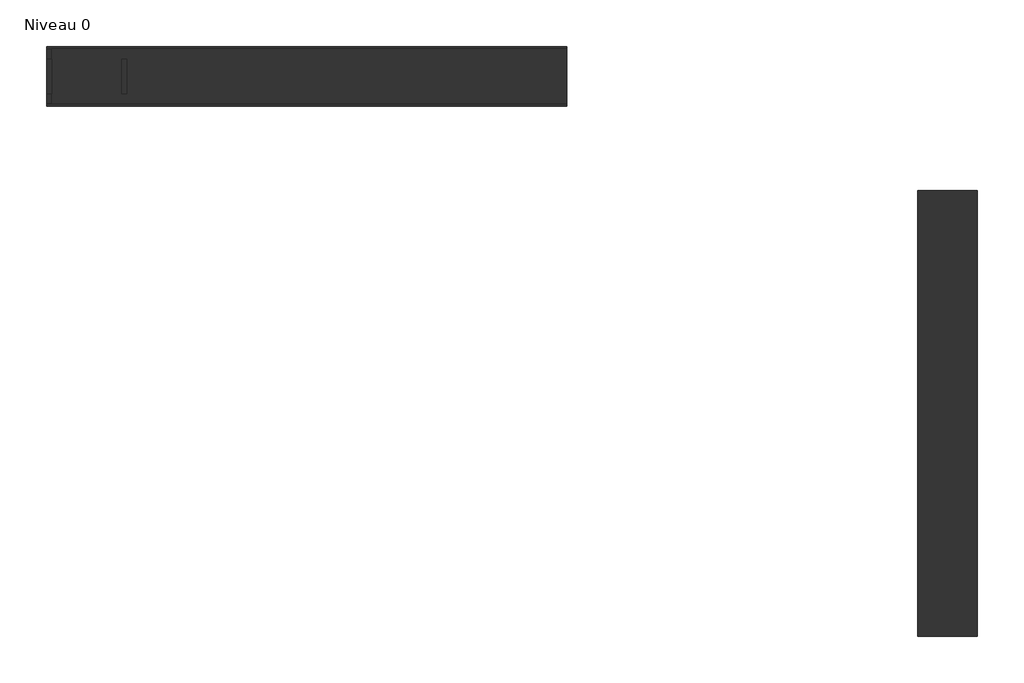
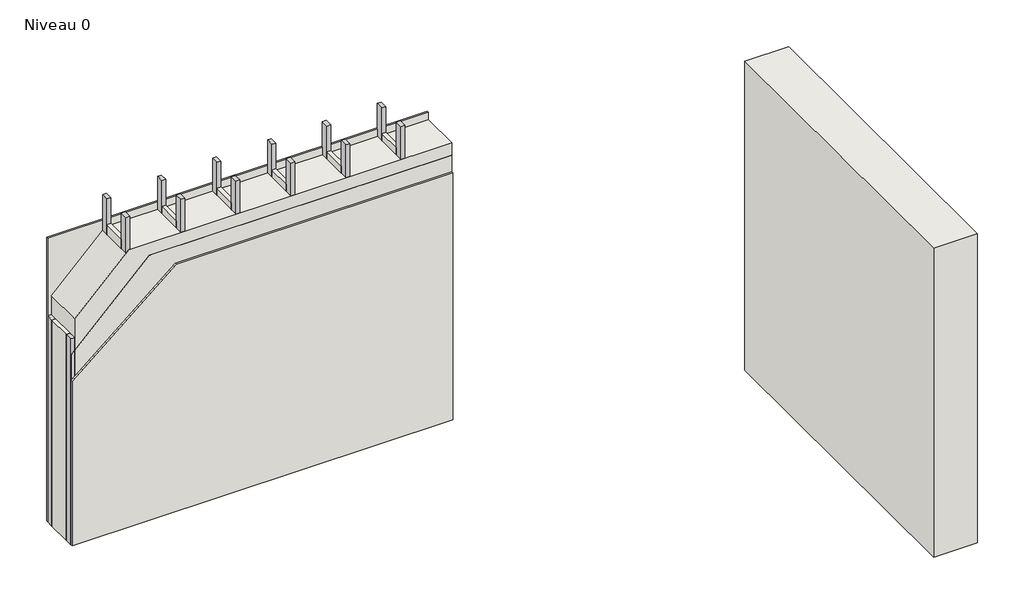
# One storey: 14 columns, 12 walls.
"""IFC4 building model written with IfcOpenShell, lengths in millimetres."""

import ifcopenshell
import ifcopenshell.guid

model = None  # the IFC model being written
_history = None  # IfcOwnerHistory: only IFC2X3 demands one
_inside = {}  # id of a spatial element -> (the spatial element, [elements in it])
_under = {}  # id of a project, library or spatial element -> (it, [spatial elements below it])
_declared = {}  # id of a project -> (the project, [libraries it declares])
_typed = {}  # id of a type object -> (the type object, [elements of that type])
_made_of = {}  # id of a material, layer set ... -> (it, [elements and type objects made of it])


def new_model(schema):
    """Start an empty IFC model of exactly this schema.

    Asked for "IFC4X3", IfcOpenShell would pick the latest addendum, in which some entities
    have other attributes; the version numbers below select the first issue.
    IFC2X3 requires an IfcOwnerHistory on every rooted entity: one is made here for all.
    """
    global model, _history
    if schema == "IFC4X3":
        model = ifcopenshell.file(schema_version=(4, 3, 0, 0))
    else:
        model = ifcopenshell.file(schema=schema)
    _inside.clear()
    _under.clear()
    _declared.clear()
    _typed.clear()
    _made_of.clear()
    _history = None
    if model.schema == "IFC2X3":
        org = make("IfcOrganization", Name="unknown")
        user = make(
            "IfcPersonAndOrganization",
            ThePerson=make("IfcPerson", FamilyName="unknown"),
            TheOrganization=org,
        )
        app = make(
            "IfcApplication",
            ApplicationDeveloper=org,
            Version="unknown",
            ApplicationFullName="unknown",
            ApplicationIdentifier="unknown",
        )
        _history = make(
            "IfcOwnerHistory",
            OwningUser=user,
            OwningApplication=app,
            ChangeAction="ADDED",
            CreationDate=0,
        )
    return model


def make(cls, **values):
    """One entity of the class cls with the attributes given. An attribute that is None is left unset."""
    return model.create_entity(
        cls, **{name: value for name, value in values.items() if value is not None}
    )


def rooted(cls, **values):
    """An entity with a GlobalId (a new one), such as an element, a storey or a relation."""
    return make(cls, GlobalId=ifcopenshell.guid.new(), OwnerHistory=_history, **values)


def si_unit(unit_type, name, prefix=None):
    """IfcSIUnit, for example si_unit("LENGTHUNIT", "METRE", prefix="MILLI")."""
    return make("IfcSIUnit", UnitType=unit_type, Prefix=prefix, Name=name)


def assignment(units):
    """IfcUnitAssignment: the units of a project."""
    return None if units is None else make("IfcUnitAssignment", Units=units)


def point(xyz):
    """IfcCartesianPoint."""
    return None if xyz is None else make("IfcCartesianPoint", Coordinates=xyz)


def direction(xyz):
    """IfcDirection."""
    return None if xyz is None else make("IfcDirection", DirectionRatios=xyz)


def frame(location, z_axis=None, x_axis=None):
    """IfcAxis2Placement3D, a coordinate frame: its origin and axes. An axis left out is left unset."""
    return make(
        "IfcAxis2Placement3D",
        Location=point(location),
        Axis=direction(z_axis),
        RefDirection=direction(x_axis),
    )


def origin():
    """The frame at (0, 0, 0) with its axes left unset."""
    return frame((0.0, 0.0, 0.0))


def origin_with_axes():
    """The frame at (0, 0, 0) with the z axis (0, 0, 1) and the x axis (1, 0, 0) written out."""
    return frame((0.0, 0.0, 0.0), z_axis=(0.0, 0.0, 1.0), x_axis=(1.0, 0.0, 0.0))


def place(relative_to, where):
    """IfcLocalPlacement: puts the frame where relative to a parent placement (None: the world)."""
    return make(
        "IfcLocalPlacement", PlacementRelTo=relative_to, RelativePlacement=where
    )


def context(
    kind, dimensions, precision=None, world=None, true_north=None, identifier=None
):
    """IfcGeometricRepresentationContext, for example the 3D "Model" context."""
    return make(
        "IfcGeometricRepresentationContext",
        ContextIdentifier=identifier,
        ContextType=kind,
        CoordinateSpaceDimension=dimensions,
        Precision=precision,
        WorldCoordinateSystem=world,
        TrueNorth=true_north,
    )


def project(units=None, contexts=None):
    """IfcProject with its units and contexts."""
    return rooted(
        "IfcProject",
        Name="project",
        RepresentationContexts=contexts,
        UnitsInContext=assignment(units),
    )


def spatial(cls, under=None, at=None, **own):
    """A site, building, storey or space (cls), placed at a placement, below another one or the project."""
    s = rooted(cls, ObjectPlacement=at, **own)
    if under is not None:
        _under.setdefault(under.id(), (under, []))[1].append(s)
    return s


def polyline(points):
    """IfcPolyline through the points."""
    return make("IfcPolyline", Points=[point(p) for p in points])


def outline(outer, holes=None, kind="AREA"):
    """IfcArbitraryClosedProfileDef: a profile drawn as a closed curve; with holes, ...WithVoids."""
    if holes is None:
        return make("IfcArbitraryClosedProfileDef", ProfileType=kind, OuterCurve=outer)
    return make(
        "IfcArbitraryProfileDefWithVoids",
        ProfileType=kind,
        OuterCurve=outer,
        InnerCurves=holes,
    )


def extrude(swept, where, along, depth):
    """IfcExtrudedAreaSolid: the profile swept, set in the frame where, extruded along a direction by depth."""
    return make(
        "IfcExtrudedAreaSolid",
        SweptArea=swept,
        Position=where,
        ExtrudedDirection=direction(along),
        Depth=depth,
    )


def faces_of(points, faces, orient=None, outer=None):
    """IfcFace entities. A face is a list of loops; a loop is a list of indices into points, from 0.

    orient and outer hold one flag for each loop. By default every Orientation is true, the
    first loop of a face is its IfcFaceOuterBound and the others are IfcFaceBound.
    """
    made = []
    for i, loops in enumerate(faces):
        bounds = []
        for j, loop in enumerate(loops):
            is_outer = j == 0 if outer is None else outer[i][j]
            bounds.append(
                make(
                    "IfcFaceOuterBound" if is_outer else "IfcFaceBound",
                    Bound=make("IfcPolyLoop", Polygon=[points[k] for k in loop]),
                    Orientation=True if orient is None else orient[i][j],
                )
            )
        made.append(make("IfcFace", Bounds=bounds))
    return made


def faceted_brep(points, faces, orient=None, outer=None, voids=None):
    """IfcFacetedBrep: a solid bounded by flat faces; with voids (closed shells), ...WithVoids."""
    shared = [point(p) for p in points]
    hull = make("IfcClosedShell", CfsFaces=faces_of(shared, faces, orient, outer))
    if voids is None:
        return make("IfcFacetedBrep", Outer=hull)
    return make(
        "IfcFacetedBrepWithVoids",
        Outer=hull,
        Voids=[
            make(cls, CfsFaces=faces_of(shared, fs, o, b)) for cls, fs, o, b in voids
        ],
    )


def shape(context_of_items, identifier, shape_type, items):
    """IfcShapeRepresentation: the items that make up one representation, for example the "Body"."""
    return make(
        "IfcShapeRepresentation",
        ContextOfItems=context_of_items,
        RepresentationIdentifier=identifier,
        RepresentationType=shape_type,
        Items=items,
    )


def made_of(thing, what):
    """Note that an element or type object is made of a material, layer set ...; save() writes the relation."""
    if what is not None:
        _made_of.setdefault(what.id(), (what, []))[1].append(thing)
    return thing


def element(
    cls,
    number,
    at=None,
    inside=None,
    cuts=None,
    type_object=None,
    material=None,
    context=None,
    identifier="Body",
    shape_type=None,
    held_by="IfcProductDefinitionShape",
    body=None,
    shapes=None,
    **own,
):
    """One element of the class cls, such as IfcWall. Its Tag is "e" and its number.

    at: its placement. inside: the storey or other place that contains it. cuts: it is an
    opening in that element (IfcRelVoidsElement). A single representation is given by context,
    identifier, shape_type and body (its items); several are given by shapes. held_by: the class
    of the entity that holds the representations. save() writes the other relations.
    """
    e = rooted(cls, Tag="e%d" % number, ObjectPlacement=at, **own)
    if body is not None:
        shapes = [shape(context, identifier, shape_type, body)]
    if shapes is not None:
        e.Representation = make(held_by, Representations=shapes)
    if inside is not None:
        _inside.setdefault(inside.id(), (inside, []))[1].append(e)
    if cuts is not None:
        rooted(
            "IfcRelVoidsElement", RelatingBuildingElement=cuts, RelatedOpeningElement=e
        )
    if type_object is not None:
        _typed.setdefault(type_object.id(), (type_object, []))[1].append(e)
    return made_of(e, material)


def aggregate(whole, parts):
    """IfcRelAggregates: a whole, such as a stair, and the parts it consists of."""
    return rooted("IfcRelAggregates", RelatingObject=whole, RelatedObjects=parts)


def save(model, path):
    """Write the relations noted so far, then the file.

    IfcRelAggregates (storeys below a building ...), IfcRelContainedInSpatialStructure (elements
    in a storey), IfcRelDefinesByType, IfcRelAssociatesMaterial and IfcRelDeclares: one each for
    every whole, place, type object, material and project.
    """
    for whole, parts in _under.values():
        aggregate(whole, parts)
    for where, things in _inside.values():
        rooted(
            "IfcRelContainedInSpatialStructure",
            RelatedElements=things,
            RelatingStructure=where,
        )
    for kind, things in _typed.values():
        rooted("IfcRelDefinesByType", RelatedObjects=things, RelatingType=kind)
    for what, things in _made_of.values():
        rooted("IfcRelAssociatesMaterial", RelatedObjects=things, RelatingMaterial=what)
    for by, libraries in _declared.values():
        rooted("IfcRelDeclares", RelatingContext=by, RelatedDefinitions=libraries)
    model.write(path)


model = new_model("IFC4")

# Units and contexts
model_context = context("Model", 3, world=origin())
ifc_project = project(units=[si_unit("LENGTHUNIT", "METRE", prefix="MILLI")], contexts=[model_context])

# Site, building, storey
site = spatial("IfcSite", under=ifc_project)
building = spatial("IfcBuilding", under=site)
storey = spatial("IfcBuildingStorey", under=building, Name="Niveau 0", Elevation=0.0)

# Columns
placement = place(None, origin())
element("IfcColumn", 1, ObjectType="Bois - Bois de construction de dimensions courantes : 35x70", at=placement, inside=storey, context=model_context, shape_type="SweptSolid", body=[
    extrude(outline(polyline([(-5777.5543614, -1203.2584766), (-5777.5543614, -1273.2584766), (-5812.5543614, -1273.2584766), (-5812.5543614, -1203.2584766), (-5777.5543614, -1203.2584766)])), origin_with_axes(), (0.0, 0.0, 1.0), 2000.0),
])
element("IfcColumn", 2, ObjectType="Bois - Bois de construction de dimensions courantes : 35x70", at=placement, inside=storey, context=model_context, shape_type="SweptSolid", body=[
    extrude(outline(polyline([(-5812.5543614, -973.2584766), (-5812.5543614, -903.2584766), (-5777.5543614, -903.2584766), (-5777.5543614, -973.2584766), (-5812.5543614, -973.2584766)])), origin_with_axes(), (0.0, 0.0, 1.0), 2000.0),
])
element("IfcColumn", 3, ObjectType="Bois - Bois de construction de dimensions courantes : 35x70", at=placement, inside=storey, context=model_context, shape_type="SweptSolid", body=[
    extrude(outline(polyline([(-5272.5543614, -1203.2584766), (-5272.5543614, -1273.2584766), (-5307.5543614, -1273.2584766), (-5307.5543614, -1203.2584766), (-5272.5543614, -1203.2584766)])), origin_with_axes(), (0.0, 0.0, 1.0), 3000.0),
])
element("IfcColumn", 4, ObjectType="Bois - Bois de construction de dimensions courantes : 35x70", at=placement, inside=storey, context=model_context, shape_type="SweptSolid", body=[
    extrude(outline(polyline([(-5307.5543614, -973.2584766), (-5307.5543614, -903.2584766), (-5272.5543614, -903.2584766), (-5272.5543614, -973.2584766), (-5307.5543614, -973.2584766)])), origin_with_axes(), (0.0, 0.0, 1.0), 3000.0),
])
element("IfcColumn", 5, ObjectType="Bois - Bois de construction de dimensions courantes : 35x70", at=placement, inside=storey, context=model_context, shape_type="SweptSolid", body=[
    extrude(outline(polyline([(-4767.5543614, -1203.2584766), (-4767.5543614, -1273.2584766), (-4802.5543614, -1273.2584766), (-4802.5543614, -1203.2584766), (-4767.5543614, -1203.2584766)])), origin_with_axes(), (0.0, 0.0, 1.0), 3000.0),
])
element("IfcColumn", 6, ObjectType="Bois - Bois de construction de dimensions courantes : 35x70", at=placement, inside=storey, context=model_context, shape_type="SweptSolid", body=[
    extrude(outline(polyline([(-4802.5543614, -973.2584766), (-4802.5543614, -903.2584766), (-4767.5543614, -903.2584766), (-4767.5543614, -973.2584766), (-4802.5543614, -973.2584766)])), origin_with_axes(), (0.0, 0.0, 1.0), 3000.0),
])
element("IfcColumn", 7, ObjectType="Bois - Bois de construction de dimensions courantes : 35x70", at=placement, inside=storey, context=model_context, shape_type="SweptSolid", body=[
    extrude(outline(polyline([(-4262.5543614, -1203.2584766), (-4262.5543614, -1273.2584766), (-4297.5543614, -1273.2584766), (-4297.5543614, -1203.2584766), (-4262.5543614, -1203.2584766)])), origin_with_axes(), (0.0, 0.0, 1.0), 3000.0),
])
element("IfcColumn", 8, ObjectType="Bois - Bois de construction de dimensions courantes : 35x70", at=placement, inside=storey, context=model_context, shape_type="SweptSolid", body=[
    extrude(outline(polyline([(-4297.5543614, -973.2584766), (-4297.5543614, -903.2584766), (-4262.5543614, -903.2584766), (-4262.5543614, -973.2584766), (-4297.5543614, -973.2584766)])), origin_with_axes(), (0.0, 0.0, 1.0), 3000.0),
])
element("IfcColumn", 9, ObjectType="Bois - Bois de construction de dimensions courantes : 35x70", at=placement, inside=storey, context=model_context, shape_type="SweptSolid", body=[
    extrude(outline(polyline([(-3757.5543614, -1203.2584766), (-3757.5543614, -1273.2584766), (-3792.5543614, -1273.2584766), (-3792.5543614, -1203.2584766), (-3757.5543614, -1203.2584766)])), origin_with_axes(), (0.0, 0.0, 1.0), 3000.0),
])
element("IfcColumn", 10, ObjectType="Bois - Bois de construction de dimensions courantes : 35x70", at=placement, inside=storey, context=model_context, shape_type="SweptSolid", body=[
    extrude(outline(polyline([(-3792.5543614, -973.2584766), (-3792.5543614, -903.2584766), (-3757.5543614, -903.2584766), (-3757.5543614, -973.2584766), (-3792.5543614, -973.2584766)])), origin_with_axes(), (0.0, 0.0, 1.0), 3000.0),
])
element("IfcColumn", 11, ObjectType="Bois - Bois de construction de dimensions courantes : 35x70", at=placement, inside=storey, context=model_context, shape_type="SweptSolid", body=[
    extrude(outline(polyline([(-3252.5543614, -1203.2584766), (-3252.5543614, -1273.2584766), (-3287.5543614, -1273.2584766), (-3287.5543614, -1203.2584766), (-3252.5543614, -1203.2584766)])), origin_with_axes(), (0.0, 0.0, 1.0), 3000.0),
])
element("IfcColumn", 12, ObjectType="Bois - Bois de construction de dimensions courantes : 35x70", at=placement, inside=storey, context=model_context, shape_type="SweptSolid", body=[
    extrude(outline(polyline([(-3287.5543614, -973.2584766), (-3287.5543614, -903.2584766), (-3252.5543614, -903.2584766), (-3252.5543614, -973.2584766), (-3287.5543614, -973.2584766)])), origin_with_axes(), (0.0, 0.0, 1.0), 3000.0),
])
element("IfcColumn", 13, ObjectType="Bois - Bois de construction de dimensions courantes : 35x70", at=placement, inside=storey, context=model_context, shape_type="SweptSolid", body=[
    extrude(outline(polyline([(-2747.5543614, -1203.2584766), (-2747.5543614, -1273.2584766), (-2782.5543614, -1273.2584766), (-2782.5543614, -1203.2584766), (-2747.5543614, -1203.2584766)])), origin_with_axes(), (0.0, 0.0, 1.0), 3000.0),
])
element("IfcColumn", 14, ObjectType="Bois - Bois de construction de dimensions courantes : 35x70", at=placement, inside=storey, context=model_context, shape_type="SweptSolid", body=[
    extrude(outline(polyline([(-2782.5543614, -973.2584766), (-2782.5543614, -903.2584766), (-2747.5543614, -903.2584766), (-2747.5543614, -973.2584766), (-2782.5543614, -973.2584766)])), origin_with_axes(), (0.0, 0.0, 1.0), 3000.0),
])

# Walls
element("IfcWall", 15, ObjectType="Botte de paille", at=placement, inside=storey, context=model_context, shape_type="Brep", body=[
    faceted_brep([(-5777.5543614, -1273.2584766, 0.0), (-2315.0543614, -1273.2584766, 0.0), (-2315.0543614, -1273.2584766, 2680.0), (-5281.1243396, -1273.2584766, 2680.0), (-5777.5543614, -1273.2584766, 2183.5699782), (-5777.5543614, -903.2584766, 0.0), (-5777.5543614, -903.2584766, 2183.5699782), (-5281.1243396, -903.2584766, 2680.0), (-2315.0543614, -903.2584766, 2680.0), (-2315.0543614, -903.2584766, 0.0), (-5777.5543614, -1203.2584766, 0.0), (-5777.5543614, -973.2584766, 0.0)], [[[0, 1, 2, 3, 4]], [[5, 6, 7, 8, 9]], [[1, 0, 10, 11, 5, 9]], [[2, 1, 9, 8]], [[3, 2, 8, 7]], [[4, 3, 7, 6]], [[0, 4, 6, 5, 11, 10]]]),
])
element("IfcWall", 16, ObjectType="Pare pluie rigide et perspirant", at=placement, inside=storey, context=model_context, shape_type="SweptSolid", body=[
    extrude(outline(polyline([(-2315.0543614, -903.2584766), (-5812.5543614, -903.2584766), (-5812.5543614, -887.2584766), (-2315.0543614, -887.2584766), (-2315.0543614, -903.2584766)])), origin_with_axes(), (0.0, 0.0, 1.0), 2750.0),
])
element("IfcWall", 17, ObjectType="Frein vapeur", at=placement, inside=storey, context=model_context, shape_type="SweptSolid", body=[
    extrude(outline(polyline([(0.0, -5810.0543614), (0.0, -2315.0543614), (2560.0, -2315.0543614), (2560.0, -5093.826365), (1843.7720036, -5810.0543614), (0.0, -5810.0543614)])), frame((0.0, -1274.2584766, 0.0), z_axis=(0.0, 1.0, 0.0), x_axis=(0.0, 0.0, 1.0)), (0.0, 0.0, 1.0), 1.0),
])
element("IfcWall", 18, ObjectType="Isolant complémentaire", at=placement, inside=storey, context=model_context, shape_type="SweptSolid", body=[
    extrude(outline(polyline([(-5812.5543614, -1203.2584766), (-5812.5543614, -973.2584766), (-5777.5543614, -973.2584766), (-5777.5543614, -1203.2584766), (-5812.5543614, -1203.2584766)])), origin_with_axes(), (0.0, 0.0, 1.0), 2000.0),
])
element("IfcWall", 19, ObjectType="Isolant complémentaire 2", at=placement, inside=storey, context=model_context, shape_type="SweptSolid", body=[
    extrude(outline(polyline([(-5307.5543614, -1203.2584766), (-5307.5543614, -973.2584766), (-5272.5543614, -973.2584766), (-5272.5543614, -1203.2584766), (-5307.5543614, -1203.2584766)])), origin_with_axes(), (0.0, 0.0, 1.0), 2750.0),
])
element("IfcWall", 20, ObjectType="Isolant complémentaire 2", at=placement, inside=storey, context=model_context, shape_type="SweptSolid", body=[
    extrude(outline(polyline([(-4802.5543614, -1203.2584766), (-4802.5543614, -973.2584766), (-4767.5543614, -973.2584766), (-4767.5543614, -1203.2584766), (-4802.5543614, -1203.2584766)])), origin_with_axes(), (0.0, 0.0, 1.0), 2750.0),
])
element("IfcWall", 21, ObjectType="Isolant complémentaire 2", at=placement, inside=storey, context=model_context, shape_type="SweptSolid", body=[
    extrude(outline(polyline([(-4297.5543614, -1203.2584766), (-4297.5543614, -973.2584766), (-4262.5543614, -973.2584766), (-4262.5543614, -1203.2584766), (-4297.5543614, -1203.2584766)])), origin_with_axes(), (0.0, 0.0, 1.0), 2750.0),
])
element("IfcWall", 22, ObjectType="Isolant complémentaire 2", at=placement, inside=storey, context=model_context, shape_type="SweptSolid", body=[
    extrude(outline(polyline([(-3792.5543614, -1203.2584766), (-3792.5543614, -973.2584766), (-3757.5543614, -973.2584766), (-3757.5543614, -1203.2584766), (-3792.5543614, -1203.2584766)])), origin_with_axes(), (0.0, 0.0, 1.0), 2750.0),
])
element("IfcWall", 23, ObjectType="Isolant complémentaire 2", at=placement, inside=storey, context=model_context, shape_type="SweptSolid", body=[
    extrude(outline(polyline([(-3287.5543614, -1203.2584766), (-3287.5543614, -973.2584766), (-3252.5543614, -973.2584766), (-3252.5543614, -1203.2584766), (-3287.5543614, -1203.2584766)])), origin_with_axes(), (0.0, 0.0, 1.0), 2750.0),
])
element("IfcWall", 24, ObjectType="Isolant complémentaire 2", at=placement, inside=storey, context=model_context, shape_type="SweptSolid", body=[
    extrude(outline(polyline([(-2782.5543614, -1203.2584766), (-2782.5543614, -973.2584766), (-2747.5543614, -973.2584766), (-2747.5543614, -1203.2584766), (-2782.5543614, -1203.2584766)])), origin_with_axes(), (0.0, 0.0, 1.0), 2750.0),
])
element("IfcWall", 25, ObjectType="Contreventement", at=placement, inside=storey, context=model_context, shape_type="SweptSolid", body=[
    extrude(outline(polyline([(0.0, -5810.0543614), (0.0, -2315.0543614), (2400.0, -2315.0543614), (2400.0, -4855.5572758), (1599.0818475, -5810.0543614), (0.0, -5810.0543614)])), frame((0.0, -1290.2584766, 0.0), z_axis=(0.0, 1.0, 0.0), x_axis=(0.0, 0.0, 1.0)), (0.0, 0.0, 1.0), 16.0),
])
element("IfcWall", 26, ObjectType="SBW_07", at=placement, inside=storey, context=model_context, shape_type="SweptSolid", body=[
    extrude(outline(polyline([(42.6937453, -4855.5228881), (42.6937453, -1855.5228881), (445.6937453, -1855.5228881), (445.6937453, -4855.5228881), (42.6937453, -4855.5228881)])), origin_with_axes(), (0.0, 0.0, 1.0), 3000.0),
])

save(model, "model.ifc")
